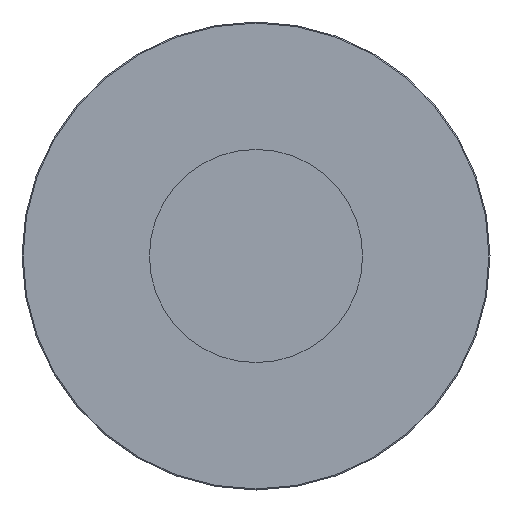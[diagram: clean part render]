
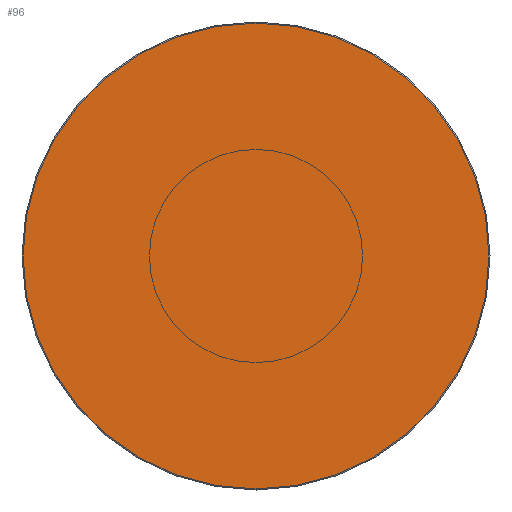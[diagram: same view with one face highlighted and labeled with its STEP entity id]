
A CAD part, front view. The second image highlights one B-rep face of the part: STEP entity #96.
In plain terms, the highlighted planar face has unit normal (0, -1, 0).
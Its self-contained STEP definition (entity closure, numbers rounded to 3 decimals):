
#1=CARTESIAN_POINT('',(0.,-5.,0.));
#2=DIRECTION('',(0.,1.,0.));
#3=DIRECTION('',(0.,0.,1.));
#4=AXIS2_PLACEMENT_3D('',#1,#2,#3);
#6=CARTESIAN_POINT('',(0.,-5.,0.));
#7=DIRECTION('',(0.,1.,0.));
#8=DIRECTION('',(0.,0.,-1.));
#9=AXIS2_PLACEMENT_3D('',#6,#7,#8);
#81=CARTESIAN_POINT('',(0.,-5.,44.8));
#82=CARTESIAN_POINT('',(0.,-5.,-44.8));
#83=VERTEX_POINT('',#81);
#84=VERTEX_POINT('',#82);
#85=CARTESIAN_POINT('',(0.,-5.,0.));
#86=DIRECTION('',(0.,-1.,0.));
#87=DIRECTION('',(0.,0.,-1.));
#88=AXIS2_PLACEMENT_3D('',#85,#86,#87);
#89=PLANE('',#88);
#91=ORIENTED_EDGE('',*,*,#90,.T.);
#93=ORIENTED_EDGE('',*,*,#92,.T.);
#94=EDGE_LOOP('',(#91,#93));
#95=FACE_OUTER_BOUND('',#94,.F.);
#96=ADVANCED_FACE('',(#95),#89,.T.);
#5=CIRCLE('',#4,44.8);
#10=CIRCLE('',#9,44.8);
#90=EDGE_CURVE('',#83,#84,#5,.T.);
#92=EDGE_CURVE('',#84,#83,#10,.T.);
